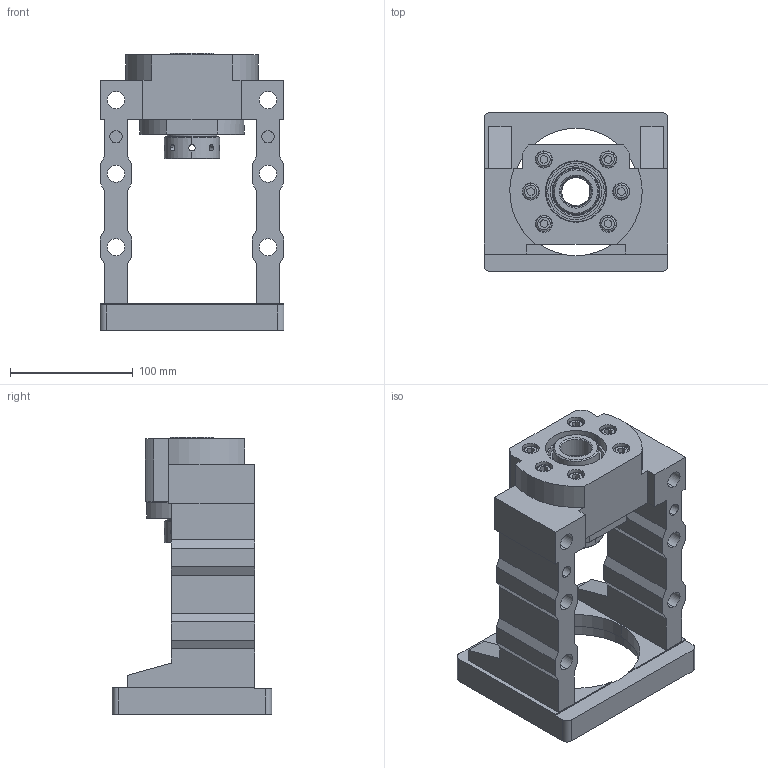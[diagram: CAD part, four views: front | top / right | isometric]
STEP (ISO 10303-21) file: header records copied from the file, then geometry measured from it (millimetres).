
FILE_DESCRIPTION (( 'STEP AP203' ), '1' );
FILE_NAME ('MBCS25W-G²Õ¦X¥ó.STEP', '2022-11-01T06:38:05', ( '' ), ( '' ), 'SwSTEP 2.0', 'SolidWorks 2018', '' );
FILE_SCHEMA (( 'CONFIG_CONTROL_DESIGN' ));
Length unit declared in the file: millimetre
Products named in the file (1): MBCS25W-G組合件
Bounding box: 150 x 130 x 226 mm (x, y, z)
Surface area: 192207.2 mm2 (no closed solid volume)
Topology: 0 solids, 23 shells, 354 faces, 975 edges, 639 vertices
Faces by surface type: plane 134, cylinder 132, cone 60, torus 26, bspline 2
Entity records: 12494 total; most frequent: CARTESIAN_POINT 3369, DIRECTION 1956, ORIENTED_EDGE 1719, EDGE_CURVE 967, AXIS2_PLACEMENT_3D 742, VERTEX_POINT 639, VECTOR 472, LINE 472
